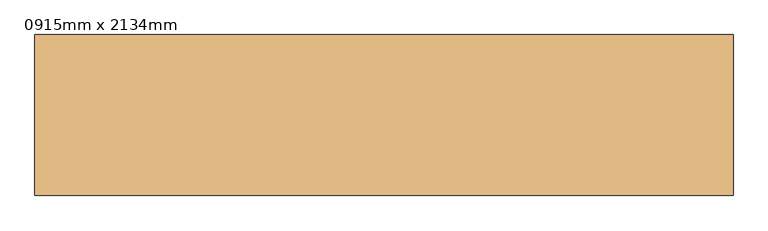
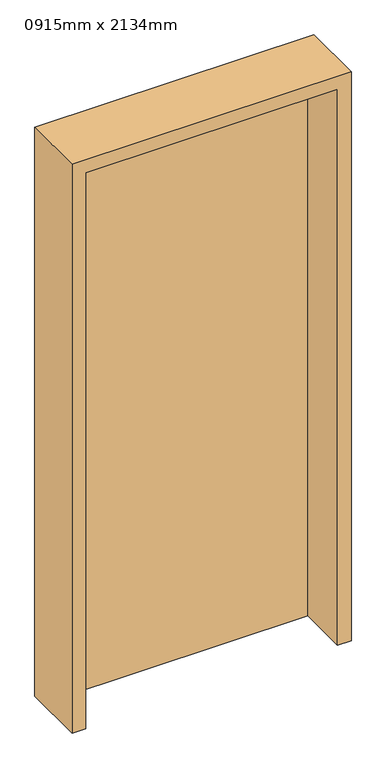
"""IFC4 building model written with IfcOpenShell, lengths in millimetres: door geometry, m-doors-hm-f1-a : 0915mm x 2134mm."""

from ifc_helpers import new_model, si_unit, frame, origin, origin_with_axes, place, context, project, spatial, polyline, outline, extrude, source, transform, mapped, element, save


def door_0915mm_x_2134mm_2aa27b83(model_context):
    return source(origin(), model_context, "Body", "SweptSolid", [
        extrude(outline(polyline([(457.5, -105.5), (-457.5, -105.5), (-457.5, -60.5), (457.5, -60.5), (457.5, -105.5)])), origin_with_axes(), (0.0, 0.0, 1.0), 2134.0),
        extrude(outline(polyline([(0.0, -507.5), (0.0, -457.5), (2134.0, -457.5), (2134.0, 457.5), (0.0, 457.5), (0.0, 507.5), (2184.0, 507.5), (2184.0, -507.5), (0.0, -507.5)])), frame((0.0, -292.0, 0.0), z_axis=(0.0, 1.0, 0.0), x_axis=(0.0, 0.0, 1.0)), (0.0, 0.0, 1.0), 234.0),
    ])


if __name__ == "__main__":
    model = new_model("IFC4")
    model_context = context("Model", 3, world=origin())
    ifc_project = project(units=[si_unit("LENGTHUNIT", "METRE", prefix="MILLI")], contexts=[model_context])
    site = spatial("IfcSite", under=ifc_project)
    building = spatial("IfcBuilding", under=site)
    placement = place(None, origin())
    door_0915mm_x_2134mm_shape = door_0915mm_x_2134mm_2aa27b83(model_context)
    element("IfcDoor", 1, ObjectType="m-doors-hm-f1-a : 0915mm x 2134mm", at=placement, inside=building, context=model_context, shape_type="MappedRepresentation", body=[
        mapped(door_0915mm_x_2134mm_shape, transform((0.0, 0.0, 0.0), x_axis=(1.0, 0.0, 0.0), y_axis=(0.0, 1.0, 0.0), z_axis=(0.0, 0.0, 1.0))),
    ])
    save(model, "model.ifc")
